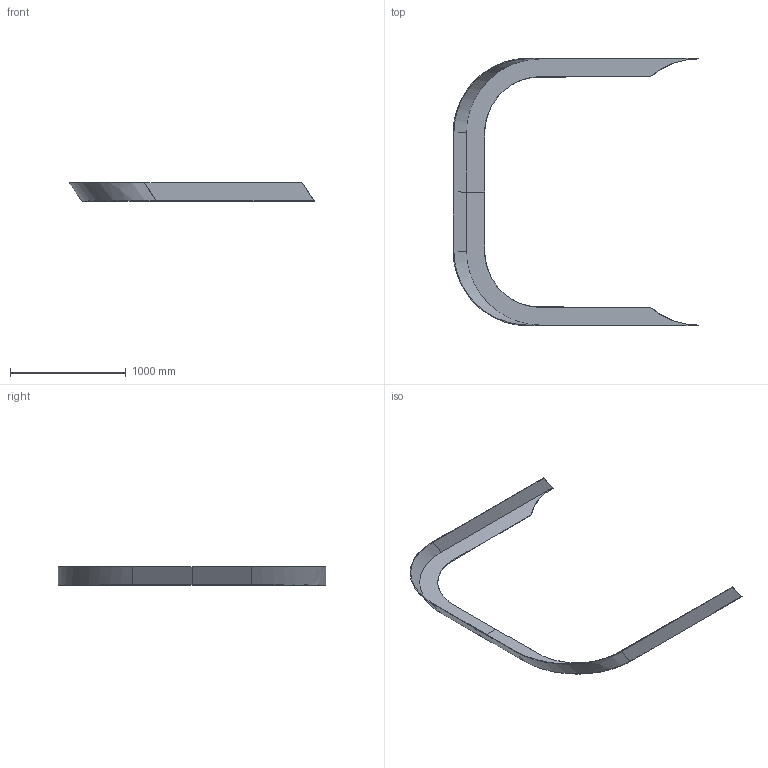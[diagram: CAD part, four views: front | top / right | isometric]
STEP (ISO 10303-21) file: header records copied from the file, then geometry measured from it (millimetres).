
FILE_DESCRIPTION(/* description */ (''),/* implementation_level */ '2;1');
FILE_NAME(/* name */ 'front_cover',/* time_stamp */ '2018-02-20T19:10:12+01:00',/* author */ (''),/* organization */ (''),/* preprocessor_version */ 'ST-DEVELOPER v14',/* originating_system */ '',/* authorisation */ '');
FILE_SCHEMA (('CONFIG_CONTROL_DESIGN'));
Length unit declared in the file: millimetre
Products named in the file (1): Document
Bounding box: 2121.94 x 2312 x 160 mm (x, y, z)
Surface area: 3584357.1 mm2 (no closed solid volume)
Topology: 0 solids, 1 shells, 26 faces, 62 edges, 36 vertices
Faces by surface type: bspline 26
Entity records: 1880 total; most frequent: CARTESIAN_POINT 1408, ORIENTED_EDGE 116, EDGE_CURVE 62, B_SPLINE_CURVE_WITH_KNOTS 62, VERTEX_POINT 36, ADVANCED_FACE 26, FACE_OUTER_BOUND 26, EDGE_LOOP 26
